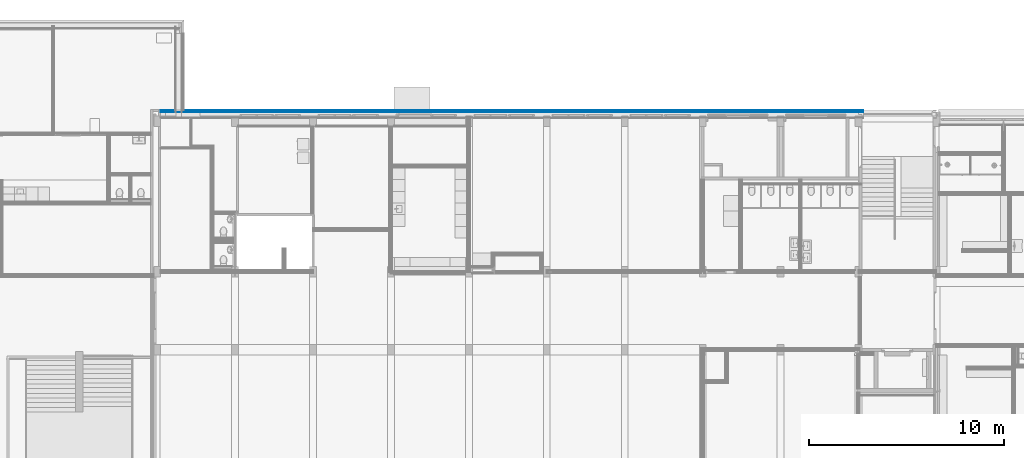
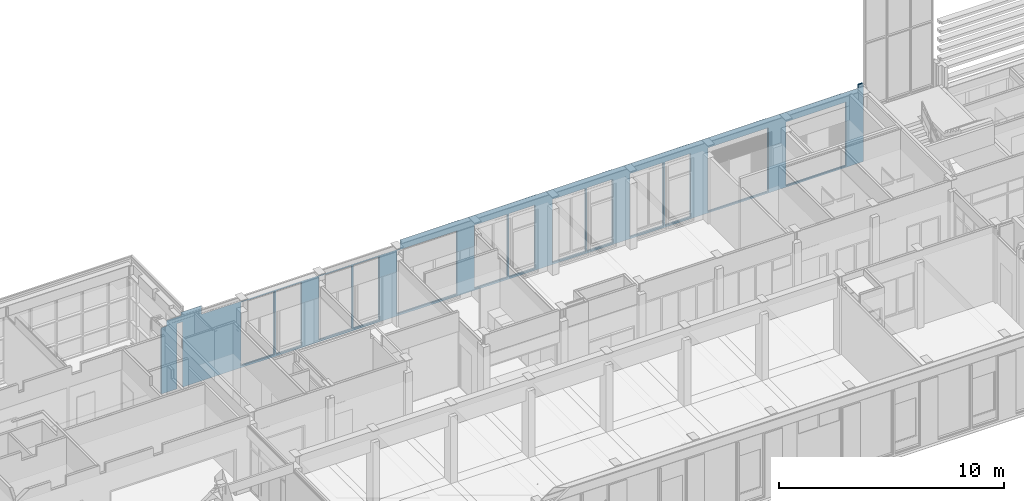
# One storey, part 74 of 109: 2 building element parts, 14 openings, 1 element without a shape of its own.
"""IFC2X3 building model written with IfcOpenShell, lengths in millimetres."""

from ifc_helpers import new_model, entity, si_unit, converted_unit, derived_unit, money_unit, direction, frame, origin_with_axes, place, context, subcontext, project, spatial, faceted_brep, material, type_object, element, aggregate, save


model = new_model("IFC2X3")

# Units and contexts
model_context = context("Model", 3, precision=0.01, world=origin_with_axes(), true_north=direction((0.0, 1.0)))
body_context = subcontext(model_context, "Body", "Model", "MODEL_VIEW")
ifc_project = project(units=[si_unit("LENGTHUNIT", "METRE", prefix="MILLI"), si_unit("AREAUNIT", "SQUARE_METRE"), si_unit("VOLUMEUNIT", "CUBIC_METRE"), converted_unit("PLANEANGLEUNIT", "DEGREE", entity("IfcPlaneAngleMeasure", 0.0174532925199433), si_unit("PLANEANGLEUNIT", "RADIAN"), dimensions=[0, 0, 0, 0, 0, 0, 0]), money_unit("EUR"), converted_unit("TIMEUNIT", "Year", entity("IfcTimeMeasure", 31557600.0), si_unit("TIMEUNIT", "SECOND"), dimensions=[0, 0, 1, 0, 0, 0, 0]), si_unit("MASSUNIT", "GRAM", prefix="KILO"), si_unit("THERMODYNAMICTEMPERATUREUNIT", "DEGREE_CELSIUS"), si_unit("LUMINOUSINTENSITYUNIT", "LUMEN"), si_unit("ENERGYUNIT", "JOULE", prefix="MEGA"), derived_unit("THERMALCONDUCTANCEUNIT", [(si_unit("POWERUNIT", "WATT"), 1), (si_unit("LENGTHUNIT", "METRE"), -1), (si_unit("THERMODYNAMICTEMPERATUREUNIT", "KELVIN"), -1)]), derived_unit("SPECIFICHEATCAPACITYUNIT", [(si_unit("ENERGYUNIT", "JOULE"), 1), (si_unit("MASSUNIT", "GRAM", prefix="KILO"), -1), (si_unit("THERMODYNAMICTEMPERATUREUNIT", "KELVIN"), -1)]), derived_unit("MASSDENSITYUNIT", [(si_unit("MASSUNIT", "GRAM", prefix="KILO"), 1), (si_unit("VOLUMEUNIT", "CUBIC_METRE"), -1)])], contexts=[model_context])

# Site, building, storey
site_placement = place(None, origin_with_axes())
site = spatial("IfcSite", under=ifc_project, at=site_placement, Name="<site naam>", CompositionType="ELEMENT")
building_placement = place(site_placement, origin_with_axes())
building = spatial("IfcBuilding", under=site, at=building_placement, Name="<Naam gebouw>", CompositionType="ELEMENT")
storey_placement = place(building_placement, origin_with_axes())
storey = spatial("IfcBuildingStorey", under=building, at=storey_placement, Name="00 Begane grond", CompositionType="ELEMENT", Elevation=0.0)

# Wall, openings, building element parts
wall_type = type_object("IfcWallType", Name="HSB_285 gevelbeplating 420", PredefinedType="NOTDEFINED")
wall_placement = place(storey_placement, frame((48251.99999966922, 20297.99999999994, 0.0), z_axis=(0.0, 0.0, 1.0), x_axis=(-1.0, 0.0, 0.0)))
wall = element("IfcWall", 1, at=wall_placement, inside=storey, type_object=wall_type, Name="21_Binnenwand_HSB_285")
opening_1_placement = place(wall_placement, frame((17550.9999996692, 0.0, 100.0), z_axis=(0.0, 0.0, 1.0), x_axis=(1.0, 0.0, 0.0)))
element("IfcOpeningElement", 2, at=opening_1_placement, cuts=wall, Name="21_BU-A-01b sp_305", context=body_context, shape_type="Brep", body=[
    faceted_brep([(663.0000000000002, 212.9999999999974, 3450.0), (-663.0000000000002, 212.9999999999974, 3450.0), (-663.0000000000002, -1.000000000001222, 3450.0), (663.0000000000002, -1.000000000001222, 3450.0), (663.0000000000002, 421.000000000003, 3450.0), (-663.0000000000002, 421.000000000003, 3450.0), (-663.0000000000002, 212.9999999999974, 0.0), (-663.0000000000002, -1.000000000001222, 0.0), (663.0000000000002, -1.000000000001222, 0.0), (663.0000000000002, 212.9999999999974, 0.0), (663.0000000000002, 421.000000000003, 0.0), (-663.0000000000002, 421.000000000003, 0.0)], [[[0, 1, 2, 3]], [[1, 0, 4, 5]], [[1, 6, 7, 2]], [[2, 7, 8, 3]], [[9, 0, 3, 8]], [[0, 9, 10, 4]], [[4, 10, 11, 5]], [[6, 1, 5, 11]], [[6, 9, 8, 7]], [[9, 6, 11, 10]]]),
])
opening_2_placement = place(wall_placement, frame((25551.00012310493, 0.0, 100.0), z_axis=(0.0, 0.0, 1.0), x_axis=(1.0, 0.0, 0.0)))
element("IfcOpeningElement", 3, at=opening_2_placement, cuts=wall, Name="21_BU-A-01b sp_305", context=body_context, shape_type="Brep", body=[
    faceted_brep([(663.0000000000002, 212.9999999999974, 3450.0), (-663.0000000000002, 212.9999999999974, 3450.0), (-663.0000000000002, -1.000000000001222, 3450.0), (663.0000000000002, -1.000000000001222, 3450.0), (663.0000000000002, 421.000000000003, 3450.0), (-663.0000000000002, 421.000000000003, 3450.0), (-663.0000000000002, 212.9999999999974, 0.0), (-663.0000000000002, -1.000000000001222, 0.0), (663.0000000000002, -1.000000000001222, 0.0), (663.0000000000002, 212.9999999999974, 0.0), (663.0000000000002, 421.000000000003, 0.0), (-663.0000000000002, 421.000000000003, 0.0)], [[[0, 1, 2, 3]], [[1, 0, 4, 5]], [[1, 6, 7, 2]], [[2, 7, 8, 3]], [[9, 0, 3, 8]], [[0, 9, 10, 4]], [[4, 10, 11, 5]], [[6, 1, 5, 11]], [[6, 9, 8, 7]], [[9, 6, 11, 10]]]),
])
opening_3_placement = place(wall_placement, frame((27140.99995093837, 0.0, 100.0), z_axis=(0.0, 0.0, 1.0), x_axis=(1.0, 0.0, 0.0)))
element("IfcOpeningElement", 4, at=opening_3_placement, cuts=wall, Name="21_BU-A-01a sp_305", context=body_context, shape_type="Brep", body=[
    faceted_brep([(850.9999999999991, 212.9999999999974, 3450.0), (-850.9999999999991, 212.9999999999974, 3450.0), (-850.9999999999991, -1.000000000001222, 3450.0), (850.9999999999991, -1.000000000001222, 3450.0), (850.9999999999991, 421.000000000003, 3450.0), (-850.9999999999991, 421.000000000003, 3450.0), (-850.9999999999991, 212.9999999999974, 0.0), (-850.9999999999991, -1.000000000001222, 0.0), (850.9999999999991, -1.000000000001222, 0.0), (850.9999999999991, 212.9999999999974, 0.0), (850.9999999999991, 421.000000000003, 0.0), (-850.9999999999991, 421.000000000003, 0.0)], [[[0, 1, 2, 3]], [[1, 0, 4, 5]], [[1, 6, 7, 2]], [[2, 7, 8, 3]], [[9, 0, 3, 8]], [[0, 9, 10, 4]], [[4, 10, 11, 5]], [[6, 1, 5, 11]], [[6, 9, 8, 7]], [[9, 6, 11, 10]]]),
])
opening_4_placement = place(wall_placement, frame((19140.98053610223, 0.0, 100.0), z_axis=(0.0, 0.0, 1.0), x_axis=(1.0, 0.0, 0.0)))
element("IfcOpeningElement", 5, at=opening_4_placement, cuts=wall, Name="21_BU-A-01a sp_305", context=body_context, shape_type="Brep", body=[
    faceted_brep([(850.9999999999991, 212.9999999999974, 3450.0), (-850.9999999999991, 212.9999999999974, 3450.0), (-850.9999999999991, -1.000000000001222, 3450.0), (850.9999999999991, -1.000000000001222, 3450.0), (850.9999999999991, 421.000000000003, 3450.0), (-850.9999999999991, 421.000000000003, 3450.0), (-850.9999999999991, 212.9999999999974, 0.0), (-850.9999999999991, -1.000000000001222, 0.0), (850.9999999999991, -1.000000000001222, 0.0), (850.9999999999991, 212.9999999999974, 0.0), (850.9999999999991, 421.000000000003, 0.0), (-850.9999999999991, 421.000000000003, 0.0)], [[[0, 1, 2, 3]], [[1, 0, 4, 5]], [[1, 6, 7, 2]], [[2, 7, 8, 3]], [[9, 0, 3, 8]], [[0, 9, 10, 4]], [[4, 10, 11, 5]], [[6, 1, 5, 11]], [[6, 9, 8, 7]], [[9, 6, 11, 10]]]),
])
opening_5_placement = place(wall_placement, frame((9551.000010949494, 0.0, 100.0), z_axis=(0.0, 0.0, 1.0), x_axis=(1.0, 0.0, 0.0)))
element("IfcOpeningElement", 6, at=opening_5_placement, cuts=wall, Name="21_BU-A-01b sp_305", context=body_context, shape_type="Brep", body=[
    faceted_brep([(662.9999999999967, 213.000000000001, 3450.0), (-662.9999999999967, 213.000000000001, 3450.0), (-662.9999999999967, -1.000000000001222, 3450.0), (662.9999999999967, -1.000000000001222, 3450.0), (662.9999999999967, 421.000000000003, 3450.0), (-662.9999999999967, 421.000000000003, 3450.0), (-662.9999999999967, 213.000000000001, 0.0), (-662.9999999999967, -1.000000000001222, 0.0), (662.9999999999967, -1.000000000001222, 0.0), (662.9999999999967, 213.000000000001, 0.0), (662.9999999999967, 421.000000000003, 0.0), (-662.9999999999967, 421.000000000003, 0.0)], [[[0, 1, 2, 3]], [[1, 0, 4, 5]], [[1, 6, 7, 2]], [[2, 7, 8, 3]], [[9, 0, 3, 8]], [[0, 9, 10, 4]], [[4, 10, 11, 5]], [[6, 1, 5, 11]], [[6, 9, 8, 7]], [[9, 6, 11, 10]]]),
])
opening_6_placement = place(wall_placement, frame((13550.99999966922, 0.0, 100.0), z_axis=(0.0, 0.0, 1.0), x_axis=(1.0, 0.0, 0.0)))
element("IfcOpeningElement", 7, at=opening_6_placement, cuts=wall, Name="21_BU-A-01b sp_305", context=body_context, shape_type="Brep", body=[
    faceted_brep([(662.9999999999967, 213.000000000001, 3450.0), (-662.9999999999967, 213.000000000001, 3450.0), (-662.9999999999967, -1.000000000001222, 3450.0), (662.9999999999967, -1.000000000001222, 3450.0), (662.9999999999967, 421.000000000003, 3450.0), (-662.9999999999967, 421.000000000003, 3450.0), (-662.9999999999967, 213.000000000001, 0.0), (-662.9999999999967, -1.000000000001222, 0.0), (662.9999999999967, -1.000000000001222, 0.0), (662.9999999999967, 213.000000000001, 0.0), (662.9999999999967, 421.000000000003, 0.0), (-662.9999999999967, 421.000000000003, 0.0)], [[[0, 1, 2, 3]], [[1, 0, 4, 5]], [[1, 6, 7, 2]], [[2, 7, 8, 3]], [[9, 0, 3, 8]], [[0, 9, 10, 4]], [[4, 10, 11, 5]], [[6, 1, 5, 11]], [[6, 9, 8, 7]], [[9, 6, 11, 10]]]),
])
opening_7_placement = place(wall_placement, frame((11140.9999996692, 0.0, 100.0), z_axis=(0.0, 0.0, 1.0), x_axis=(1.0, 0.0, 0.0)))
element("IfcOpeningElement", 8, at=opening_7_placement, cuts=wall, Name="21_BU-A-01a sp_305", context=body_context, shape_type="Brep", body=[
    faceted_brep([(850.9999999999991, 213.000000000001, 3450.0), (-850.9999999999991, 213.000000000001, 3450.0), (-850.9999999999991, -1.000000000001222, 3450.0), (850.9999999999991, -1.000000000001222, 3450.0), (850.9999999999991, 421.000000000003, 3450.0), (-850.9999999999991, 421.000000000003, 3450.0), (-850.9999999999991, 213.000000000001, 0.0), (-850.9999999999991, -1.000000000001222, 0.0), (850.9999999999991, -1.000000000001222, 0.0), (850.9999999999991, 213.000000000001, 0.0), (850.9999999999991, 421.000000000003, 0.0), (-850.9999999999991, 421.000000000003, 0.0)], [[[0, 1, 2, 3]], [[1, 0, 4, 5]], [[1, 6, 7, 2]], [[2, 7, 8, 3]], [[9, 0, 3, 8]], [[0, 9, 10, 4]], [[4, 10, 11, 5]], [[6, 1, 5, 11]], [[6, 9, 8, 7]], [[9, 6, 11, 10]]]),
])
opening_8_placement = place(wall_placement, frame((21551.00000902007, 0.0, 100.0), z_axis=(0.0, 0.0, 1.0), x_axis=(1.0, 0.0, 0.0)))
element("IfcOpeningElement", 9, at=opening_8_placement, cuts=wall, Name="21_BU-A-01b sp_305", context=body_context, shape_type="Brep", body=[
    faceted_brep([(663.0000000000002, 212.9999999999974, 3450.0), (-663.0000000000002, 212.9999999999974, 3450.0), (-663.0000000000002, -1.000000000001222, 3450.0), (663.0000000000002, -1.000000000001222, 3450.0), (663.0000000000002, 421.000000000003, 3450.0), (-663.0000000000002, 421.000000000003, 3450.0), (-663.0000000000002, 212.9999999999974, 0.0), (-663.0000000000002, -1.000000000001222, 0.0), (663.0000000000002, -1.000000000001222, 0.0), (663.0000000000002, 212.9999999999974, 0.0), (663.0000000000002, 421.000000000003, 0.0), (-663.0000000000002, 421.000000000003, 0.0)], [[[0, 1, 2, 3]], [[1, 0, 4, 5]], [[1, 6, 7, 2]], [[2, 7, 8, 3]], [[9, 0, 3, 8]], [[0, 9, 10, 4]], [[4, 10, 11, 5]], [[6, 1, 5, 11]], [[6, 9, 8, 7]], [[9, 6, 11, 10]]]),
])
opening_9_placement = place(wall_placement, frame((29550.99999966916, 0.0, 100.0), z_axis=(0.0, 0.0, 1.0), x_axis=(1.0, 0.0, 0.0)))
element("IfcOpeningElement", 10, at=opening_9_placement, cuts=wall, Name="21_BU-A-01b sp_305", context=body_context, shape_type="Brep", body=[
    faceted_brep([(663.0000000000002, 212.9999999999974, 3450.0), (-663.0000000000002, 212.9999999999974, 3450.0), (-663.0000000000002, -1.000000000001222, 3450.0), (663.0000000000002, -1.000000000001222, 3450.0), (663.0000000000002, 421.000000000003, 3450.0), (-663.0000000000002, 421.000000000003, 3450.0), (-663.0000000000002, 212.9999999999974, 0.0), (-663.0000000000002, -1.000000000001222, 0.0), (663.0000000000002, -1.000000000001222, 0.0), (663.0000000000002, 212.9999999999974, 0.0), (663.0000000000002, 421.000000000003, 0.0), (-663.0000000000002, 421.000000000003, 0.0)], [[[0, 1, 2, 3]], [[1, 0, 4, 5]], [[1, 6, 7, 2]], [[2, 7, 8, 3]], [[9, 0, 3, 8]], [[0, 9, 10, 4]], [[4, 10, 11, 5]], [[6, 1, 5, 11]], [[6, 9, 8, 7]], [[9, 6, 11, 10]]]),
])
opening_10_placement = place(wall_placement, frame((31140.99993875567, 0.0, 100.0), z_axis=(0.0, 0.0, 1.0), x_axis=(1.0, 0.0, 0.0)))
element("IfcOpeningElement", 11, at=opening_10_placement, cuts=wall, Name="21_BU-A-01a sp_305", context=body_context, shape_type="Brep", body=[
    faceted_brep([(850.9999999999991, 212.9999999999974, 3450.0), (-850.9999999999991, 212.9999999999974, 3450.0), (-850.9999999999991, -1.000000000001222, 3450.0), (850.9999999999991, -1.000000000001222, 3450.0), (850.9999999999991, 421.000000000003, 3450.0), (-850.9999999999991, 421.000000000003, 3450.0), (-850.9999999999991, 212.9999999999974, 0.0), (-850.9999999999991, -1.000000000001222, 0.0), (850.9999999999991, -1.000000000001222, 0.0), (850.9999999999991, 212.9999999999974, 0.0), (850.9999999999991, 421.000000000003, 0.0), (-850.9999999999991, 421.000000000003, 0.0)], [[[0, 1, 2, 3]], [[1, 0, 4, 5]], [[1, 6, 7, 2]], [[2, 7, 8, 3]], [[9, 0, 3, 8]], [[0, 9, 10, 4]], [[4, 10, 11, 5]], [[6, 1, 5, 11]], [[6, 9, 8, 7]], [[9, 6, 11, 10]]]),
])
opening_11_placement = place(wall_placement, frame((23073.49996408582, 0.0, 103.0000398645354), z_axis=(0.0, 0.0, 1.0), x_axis=(1.0, 0.0, 0.0)))
element("IfcOpeningElement", 12, at=opening_11_placement, cuts=wall, Name="21_BU-C-02_305", context=body_context, shape_type="Brep", body=[
    faceted_brep([(918.4999990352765, 204.9999999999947, 3451.998648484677), (-918.4999990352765, 204.9999999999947, 3451.998648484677), (-918.4999990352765, -1.000000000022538, 3451.998648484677), (918.4999990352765, -1.000000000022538, 3451.998648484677), (918.4999990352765, 421.000000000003, 3451.998648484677), (-918.4999990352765, 421.000000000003, 3451.998648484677), (-918.4999990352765, 204.9999999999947, 0.0), (-918.4999990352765, -1.000000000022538, 0.0), (918.4999990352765, -1.000000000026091, 0.0), (918.4999990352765, 204.9999999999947, 0.0), (918.4999990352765, 421.000000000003, 0.0), (-918.4999990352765, 421.000000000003, 0.0)], [[[0, 1, 2, 3]], [[1, 0, 4, 5]], [[1, 6, 7, 2]], [[2, 7, 8, 3]], [[9, 0, 3, 8]], [[0, 9, 10, 4]], [[4, 10, 11, 5]], [[6, 1, 5, 11]], [[6, 9, 8, 7]], [[9, 6, 11, 10]]]),
])
opening_12_placement = place(wall_placement, frame((2441.000957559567, 0.0, 78.00000000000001), z_axis=(0.0, 0.0, 1.0), x_axis=(1.0, 0.0, 0.0)))
element("IfcOpeningElement", 13, at=opening_12_placement, cuts=wall, Name="21_BU-F-01_305", context=body_context, shape_type="Brep", body=[
    faceted_brep([(1552.0, 204.9999999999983, 3472.000000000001), (-1552.0, 204.9999999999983, 3472.000000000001), (-1552.0, -1.000000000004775, 3472.000000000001), (1552.0, -1.000000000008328, 3472.000000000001), (1552.0, 421.000000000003, 3472.000000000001), (-1552.0, 421.000000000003, 3472.000000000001), (-1552.0, 204.9999999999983, 0.0), (-1552.0, -1.000000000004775, 0.0), (1552.0, -1.000000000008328, 0.0), (1552.0, 204.9999999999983, 0.0), (1552.0, 421.000000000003, 0.0), (-1552.0, 421.000000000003, 0.0)], [[[0, 1, 2, 3]], [[1, 0, 4, 5]], [[1, 6, 7, 2]], [[2, 7, 8, 3]], [[9, 0, 3, 8]], [[0, 9, 10, 4]], [[4, 10, 11, 5]], [[6, 1, 5, 11]], [[6, 9, 8, 7]], [[9, 6, 11, 10]]]),
])
opening_13_placement = place(wall_placement, frame((6439.999999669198, 0.0, 77.99999999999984), z_axis=(0.0, 0.0, 1.0), x_axis=(1.0, 0.0, 0.0)))
element("IfcOpeningElement", 14, at=opening_13_placement, cuts=wall, Name="21_BU-F-01_305", context=body_context, shape_type="Brep", body=[
    faceted_brep([(1552.0, 204.9999999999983, 3472.000000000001), (-1552.0, 204.9999999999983, 3472.000000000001), (-1552.0, -1.000000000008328, 3472.000000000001), (1552.0, -1.00000000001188, 3472.000000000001), (1552.0, 421.000000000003, 3472.000000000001), (-1552.0, 421.000000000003, 3472.000000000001), (-1552.0, 204.9999999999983, 0.0), (-1552.0, -1.000000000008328, 0.0), (1552.0, -1.00000000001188, 0.0), (1552.0, 204.9999999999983, 0.0), (1552.0, 421.000000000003, 0.0), (-1552.0, 421.000000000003, 0.0)], [[[0, 1, 2, 3]], [[1, 0, 4, 5]], [[1, 6, 7, 2]], [[2, 7, 8, 3]], [[9, 0, 3, 8]], [[0, 9, 10, 4]], [[4, 10, 11, 5]], [[6, 1, 5, 11]], [[6, 9, 8, 7]], [[9, 6, 11, 10]]]),
])
opening_14_placement = place(wall_placement, frame((15140.99984577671, 0.0, 100.0), z_axis=(0.0, 0.0, 1.0), x_axis=(1.0, 0.0, 0.0)))
element("IfcOpeningElement", 15, at=opening_14_placement, cuts=wall, Name="21_BU-A-01a sp_305", context=body_context, shape_type="Brep", body=[
    faceted_brep([(850.9999999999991, 212.9999999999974, 3450.0), (-850.9999999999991, 212.9999999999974, 3450.0), (-850.9999999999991, -1.000000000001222, 3450.0), (850.9999999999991, -1.000000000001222, 3450.0), (850.9999999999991, 421.000000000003, 3450.0), (-850.9999999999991, 421.000000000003, 3450.0), (-850.9999999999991, 212.9999999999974, 0.0), (-850.9999999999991, -1.000000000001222, 0.0), (850.9999999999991, -1.000000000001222, 0.0), (850.9999999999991, 212.9999999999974, 0.0), (850.9999999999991, 421.000000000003, 0.0), (-850.9999999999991, 421.000000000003, 0.0)], [[[0, 1, 2, 3]], [[1, 0, 4, 5]], [[1, 6, 7, 2]], [[2, 7, 8, 3]], [[9, 0, 3, 8]], [[0, 9, 10, 4]], [[4, 10, 11, 5]], [[6, 1, 5, 11]], [[6, 9, 8, 7]], [[9, 6, 11, 10]]]),
])
ifc_material_1 = material(Name="folie_dampopen")
building_element_part_1_placement = place(wall_placement, origin_with_axes())
building_element_part_1 = element("IfcBuildingElementPart", 16, at=building_element_part_1_placement, material=ifc_material_1, Name="folie_dampopen", context=body_context, shape_type="Brep", body=[
    faceted_brep([(23826.47051499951, 101.9999999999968, 4100.000000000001), (251.9999996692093, 102.0000000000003, 4100.000000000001), (251.9999996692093, 102.0000000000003, 4220.0), (251.9999996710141, 102.0000000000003, 4250.0), (0.0, 102.0000000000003, 4250.0), (0.0, 102.0000000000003, 0.0), (34997.39014477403, 101.9999999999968, 0.0), (34997.39014477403, 101.9999999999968, 3546.975460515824), (35287.89014477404, 101.9999999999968, 3546.975460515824), (35287.89014477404, 101.9999999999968, 0.0), (36076.99999966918, 101.9999999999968, 0.0), (36076.99999966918, 101.9999999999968, 3619.999999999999), (35826.99998672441, 101.9999999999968, 3619.99999999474), (35826.99998672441, 101.9999999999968, 3920.0), (35076.99999966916, 101.9999999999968, 3920.0), (35076.99999966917, 101.9999999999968, 4100.000000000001), (34041.47051499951, 101.9999999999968, 4100.000000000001), (34041.47051499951, 101.9999999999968, 3620.0), (23826.47051499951, 101.9999999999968, 3620.0), (23826.47051499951, 102.4999999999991, 4100.000000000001), (251.9999996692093, 102.5000000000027, 4100.000000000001), (251.9999996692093, 102.5000000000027, 4220.0), (251.9999996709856, 102.4999999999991, 4250.0), (0.0, 102.4999999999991, 4250.0), (0.0, 102.4999999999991, 0.0), (34997.39014477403, 102.4999999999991, 0.0), (34997.39014477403, 102.4999999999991, 3546.975460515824), (35287.89014477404, 102.4999999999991, 3546.975460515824), (35287.89014477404, 102.4999999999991, 0.0), (36076.99999966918, 102.4999999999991, 0.0), (36076.99999966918, 102.4999999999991, 3619.999999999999), (35826.99998672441, 102.4999999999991, 3619.999999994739), (35826.99998672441, 102.4999999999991, 3920.0), (35076.99999966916, 102.4999999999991, 3920.0), (35076.99999966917, 102.4999999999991, 4100.000000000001), (34041.47051499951, 102.4999999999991, 4100.000000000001), (34041.47051499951, 102.4999999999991, 3620.0), (23826.47051499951, 102.4999999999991, 3620.0)], [[[0, 1, 2, 3, 4, 5, 6, 7, 8, 9, 10, 11, 12, 13, 14, 15, 16, 17, 18]], [[1, 0, 19, 20]], [[21, 2, 1, 20]], [[2, 21, 22, 3]], [[4, 3, 22, 23]], [[23, 24, 5, 4]], [[25, 6, 5, 24]], [[7, 6, 25, 26]], [[7, 26, 27, 8]], [[9, 8, 27, 28]], [[9, 28, 29, 10]], [[10, 29, 30, 11]], [[30, 31, 12, 11]], [[12, 31, 32, 13]], [[32, 33, 14, 13]], [[34, 15, 14, 33]], [[35, 16, 15, 34]], [[16, 35, 36, 17]], [[36, 37, 18, 17]], [[19, 0, 18, 37]], [[20, 19, 37, 36, 35, 34, 33, 32, 31, 30, 29, 28, 27, 26, 25, 24, 23, 22, 21]]]),
])
ifc_material_2 = material(Name="metaal - Aluminium gevelplaat")
building_element_part_2_placement = place(wall_placement, origin_with_axes())
building_element_part_2 = element("IfcBuildingElementPart", 17, at=building_element_part_2_placement, material=ifc_material_2, Name="metaal - Aluminium gevelplaat", context=body_context, shape_type="Brep", body=[
    faceted_brep([(251.9999996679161, 0.0, 3510.000062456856), (251.9999996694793, 40.0000000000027, 3510.000062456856), (251.9999996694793, 39.99999999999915, 4250.0), (251.9999996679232, 0.0, 4250.0), (34895.39014477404, 39.99999999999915, 3510.000062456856), (34895.39014477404, 0.0, 3510.000062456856), (34895.39014477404, 39.99999999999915, 0.0), (0.0, 39.99999999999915, 0.0), (0.0, 39.99999999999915, 4250.0), (0.0, 0.0, 4250.0), (34895.39014477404, 0.0, 0.0), (0.0, 0.0, 0.0)], [[[0, 1, 2, 3]], [[4, 1, 0, 5]], [[2, 1, 4, 6, 7, 8]], [[9, 3, 2, 8]], [[10, 5, 0, 3, 9, 11]], [[4, 5, 10, 6]], [[6, 10, 11, 7]], [[8, 7, 11, 9]]]),
    faceted_brep([(35287.89014477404, 0.0, 3510.000062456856), (36076.99999966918, 0.0, 3510.000062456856), (36076.99999966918, 39.99999999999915, 3510.000062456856), (35287.89014477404, 39.99999999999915, 3510.000062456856), (35287.89014477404, 0.0, 3.000000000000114), (36076.99999966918, 0.0, 3.000000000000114), (36076.99999966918, 37.41918556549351, 3.000000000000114), (36076.99999966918, 37.41918556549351, 0.0), (36076.99999966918, 39.99999999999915, 0.0), (35287.89014477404, 39.99999999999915, 0.0), (35287.89014477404, 37.41918556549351, 0.0), (35287.89014477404, 37.41918556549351, 3.000000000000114)], [[[0, 1, 2, 3]], [[1, 0, 4, 5]], [[1, 5, 6, 7, 8, 2]], [[3, 2, 8, 9]], [[0, 3, 9, 10, 11, 4]], [[11, 6, 5, 4]], [[7, 6, 11, 10]], [[9, 8, 7, 10]]]),
])
aggregate(wall, [building_element_part_1, building_element_part_2])

save(model, "model.ifc")
